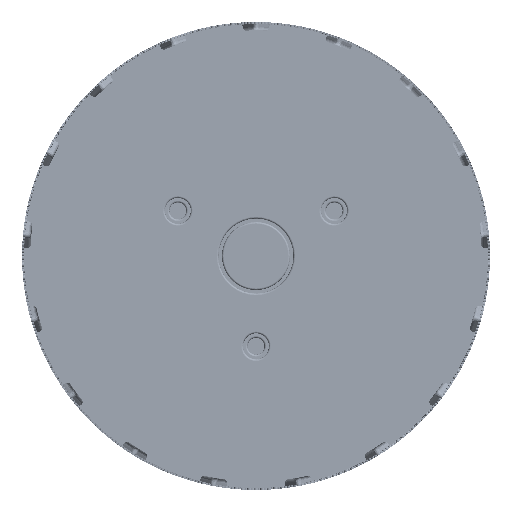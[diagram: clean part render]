
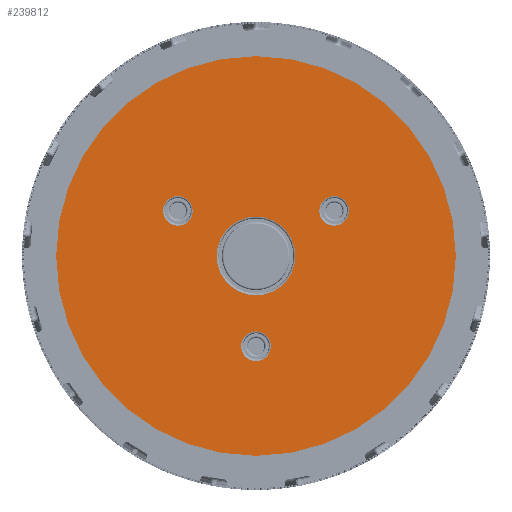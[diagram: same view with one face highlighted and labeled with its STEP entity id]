
A CAD part, front view. The second image highlights one B-rep face of the part: STEP entity #239812.
In plain terms, the highlighted planar face has unit normal (0, -1, 0).
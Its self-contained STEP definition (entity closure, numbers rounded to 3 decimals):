
#23880 = DIRECTION ( 'NONE',  ( 0., 1., 0. ) ) ;
#29271 = CARTESIAN_POINT ( 'NONE',  ( 0., -7.1, -31. ) ) ;
#33184 = PLANE ( 'NONE',  #602758 ) ;
#43478 = CIRCLE ( 'NONE', #632944, 2.3 ) ;
#51016 = EDGE_CURVE ( 'NONE', #304640, #138009, #112361, .T. ) ;
#75746 = AXIS2_PLACEMENT_3D ( 'NONE', #129828, #532043, #587670 ) ;
#81326 = FACE_BOUND ( 'NONE', #164145, .T. ) ;
#83507 = EDGE_CURVE ( 'NONE', #427677, #647049, #591081, .T. ) ;
#88969 = FACE_OUTER_BOUND ( 'NONE', #410266, .T. ) ;
#95258 = DIRECTION ( 'NONE',  ( 0., 1., 0. ) ) ;
#99020 = CIRCLE ( 'NONE', #433166, 2.3 ) ;
#104994 = FACE_BOUND ( 'NONE', #629999, .T. ) ;
#108297 = ORIENTED_EDGE ( 'NONE', *, *, #51016, .T. ) ;
#111900 = CARTESIAN_POINT ( 'NONE',  ( 0., -7.1, -6.1 ) ) ;
#112324 = DIRECTION ( 'NONE',  ( 0., 0., 1. ) ) ;
#112361 = CIRCLE ( 'NONE', #325338, 6.1 ) ;
#113023 = CIRCLE ( 'NONE', #397842, 31. ) ;
#116237 = AXIS2_PLACEMENT_3D ( 'NONE', #650382, #397038, #148057 ) ;
#129828 = CARTESIAN_POINT ( 'NONE',  ( 0., -7.1, 0. ) ) ;
#133103 = EDGE_CURVE ( 'NONE', #138009, #304640, #213659, .T. ) ;
#138009 = VERTEX_POINT ( 'NONE', #111900 ) ;
#138338 = ORIENTED_EDGE ( 'NONE', *, *, #231400, .T. ) ;
#148057 = DIRECTION ( 'NONE',  ( 0., 0., 1. ) ) ;
#150819 = CARTESIAN_POINT ( 'NONE',  ( 12.124, -7.1, 9.3 ) ) ;
#161320 = DIRECTION ( 'NONE',  ( 0., 1., 0. ) ) ;
#161626 = CIRCLE ( 'NONE', #547361, 2.3 ) ;
#164145 = EDGE_LOOP ( 'NONE', ( #138338, #470800 ) ) ;
#166337 = VERTEX_POINT ( 'NONE', #150819 ) ;
#191009 = EDGE_CURVE ( 'NONE', #307972, #237714, #216811, .T. ) ;
#213039 = CARTESIAN_POINT ( 'NONE',  ( 0., -7.1, 6.1 ) ) ;
#213659 = CIRCLE ( 'NONE', #75746, 6.1 ) ;
#216003 = CARTESIAN_POINT ( 'NONE',  ( 12.124, -7.1, 4.7 ) ) ;
#216811 = CIRCLE ( 'NONE', #116237, 2.3 ) ;
#218415 = CARTESIAN_POINT ( 'NONE',  ( 0., -7.1, 31. ) ) ;
#218721 = DIRECTION ( 'NONE',  ( 0., 0., 1. ) ) ;
#226376 = VERTEX_POINT ( 'NONE', #216003 ) ;
#231400 = EDGE_CURVE ( 'NONE', #583660, #259702, #99020, .T. ) ;
#232446 = FACE_BOUND ( 'NONE', #396861, .T. ) ;
#237714 = VERTEX_POINT ( 'NONE', #363261 ) ;
#239812 = ADVANCED_FACE ( 'NONE', ( #81326, #232446, #104994, #494559, #88969 ), #33184, .F. ) ;
#243352 = DIRECTION ( 'NONE',  ( 0., 0., 1. ) ) ;
#253075 = DIRECTION ( 'NONE',  ( 0., 0., 1. ) ) ;
#259702 = VERTEX_POINT ( 'NONE', #489354 ) ;
#261340 = CARTESIAN_POINT ( 'NONE',  ( 12.124, -7.1, 7. ) ) ;
#268326 = DIRECTION ( 'NONE',  ( 0., -1., 0. ) ) ;
#269522 = DIRECTION ( 'NONE',  ( 0., 1., 0. ) ) ;
#286075 = CARTESIAN_POINT ( 'NONE',  ( 0., -7.1, -11.7 ) ) ;
#293494 = AXIS2_PLACEMENT_3D ( 'NONE', #423186, #361089, #218721 ) ;
#295560 = AXIS2_PLACEMENT_3D ( 'NONE', #390345, #641515, #392526 ) ;
#298975 = DIRECTION ( 'NONE',  ( 0., 1., 0. ) ) ;
#304640 = VERTEX_POINT ( 'NONE', #213039 ) ;
#305822 = EDGE_CURVE ( 'NONE', #647049, #427677, #113023, .T. ) ;
#307972 = VERTEX_POINT ( 'NONE', #456755 ) ;
#325338 = AXIS2_PLACEMENT_3D ( 'NONE', #632926, #23880, #635137 ) ;
#326036 = DIRECTION ( 'NONE',  ( 0., 0., -1. ) ) ;
#336954 = EDGE_CURVE ( 'NONE', #226376, #166337, #565335, .T. ) ;
#339128 = ORIENTED_EDGE ( 'NONE', *, *, #568107, .T. ) ;
#354012 = DIRECTION ( 'NONE',  ( 0., 0., 1. ) ) ;
#361089 = DIRECTION ( 'NONE',  ( 0., 1., 0. ) ) ;
#363261 = CARTESIAN_POINT ( 'NONE',  ( -12.124, -7.1, 9.3 ) ) ;
#370428 = EDGE_CURVE ( 'NONE', #259702, #583660, #161626, .T. ) ;
#390345 = CARTESIAN_POINT ( 'NONE',  ( 0., -7.1, 0. ) ) ;
#392526 = DIRECTION ( 'NONE',  ( 0., 0., -1. ) ) ;
#396861 = EDGE_LOOP ( 'NONE', ( #339128, #488166 ) ) ;
#397038 = DIRECTION ( 'NONE',  ( 0., 1., 0. ) ) ;
#397842 = AXIS2_PLACEMENT_3D ( 'NONE', #423769, #268326, #326036 ) ;
#410266 = EDGE_LOOP ( 'NONE', ( #416548, #420303 ) ) ;
#416548 = ORIENTED_EDGE ( 'NONE', *, *, #83507, .T. ) ;
#420303 = ORIENTED_EDGE ( 'NONE', *, *, #305822, .T. ) ;
#422467 = EDGE_LOOP ( 'NONE', ( #578027, #571609 ) ) ;
#423186 = CARTESIAN_POINT ( 'NONE',  ( 12.124, -7.1, 7. ) ) ;
#423769 = CARTESIAN_POINT ( 'NONE',  ( 0., -7.1, 0. ) ) ;
#427677 = VERTEX_POINT ( 'NONE', #29271 ) ;
#433166 = AXIS2_PLACEMENT_3D ( 'NONE', #469539, #269522, #622961 ) ;
#436558 = AXIS2_PLACEMENT_3D ( 'NONE', #565023, #609516, #354012 ) ;
#456755 = CARTESIAN_POINT ( 'NONE',  ( -12.124, -7.1, 4.7 ) ) ;
#469539 = CARTESIAN_POINT ( 'NONE',  ( 0., -7.1, -14. ) ) ;
#470800 = ORIENTED_EDGE ( 'NONE', *, *, #370428, .T. ) ;
#488166 = ORIENTED_EDGE ( 'NONE', *, *, #191009, .T. ) ;
#489354 = CARTESIAN_POINT ( 'NONE',  ( 0., -7.1, -16.3 ) ) ;
#494559 = FACE_BOUND ( 'NONE', #422467, .T. ) ;
#503238 = CARTESIAN_POINT ( 'NONE',  ( 0., -7.1, -14. ) ) ;
#532043 = DIRECTION ( 'NONE',  ( 0., 1., 0. ) ) ;
#547361 = AXIS2_PLACEMENT_3D ( 'NONE', #503238, #298975, #243352 ) ;
#552096 = EDGE_CURVE ( 'NONE', #166337, #226376, #43478, .T. ) ;
#565023 = CARTESIAN_POINT ( 'NONE',  ( -12.124, -7.1, 7. ) ) ;
#565287 = CIRCLE ( 'NONE', #436558, 2.3 ) ;
#565335 = CIRCLE ( 'NONE', #293494, 2.3 ) ;
#568107 = EDGE_CURVE ( 'NONE', #237714, #307972, #565287, .T. ) ;
#571609 = ORIENTED_EDGE ( 'NONE', *, *, #336954, .T. ) ;
#578027 = ORIENTED_EDGE ( 'NONE', *, *, #552096, .T. ) ;
#583660 = VERTEX_POINT ( 'NONE', #286075 ) ;
#584631 = ORIENTED_EDGE ( 'NONE', *, *, #133103, .T. ) ;
#587670 = DIRECTION ( 'NONE',  ( 0., 0., 1. ) ) ;
#591081 = CIRCLE ( 'NONE', #295560, 31. ) ;
#602758 = AXIS2_PLACEMENT_3D ( 'NONE', #655309, #95258, #253075 ) ;
#609516 = DIRECTION ( 'NONE',  ( 0., 1., 0. ) ) ;
#622961 = DIRECTION ( 'NONE',  ( 0., 0., 1. ) ) ;
#629999 = EDGE_LOOP ( 'NONE', ( #108297, #584631 ) ) ;
#632926 = CARTESIAN_POINT ( 'NONE',  ( 0., -7.1, 0. ) ) ;
#632944 = AXIS2_PLACEMENT_3D ( 'NONE', #261340, #161320, #112324 ) ;
#635137 = DIRECTION ( 'NONE',  ( 0., 0., 1. ) ) ;
#641515 = DIRECTION ( 'NONE',  ( 0., -1., 0. ) ) ;
#647049 = VERTEX_POINT ( 'NONE', #218415 ) ;
#650382 = CARTESIAN_POINT ( 'NONE',  ( -12.124, -7.1, 7. ) ) ;
#655309 = CARTESIAN_POINT ( 'NONE',  ( 0., -7.1, 0. ) ) ;
